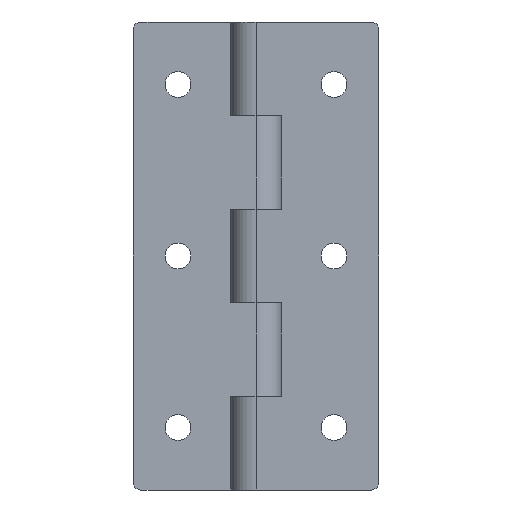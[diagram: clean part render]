
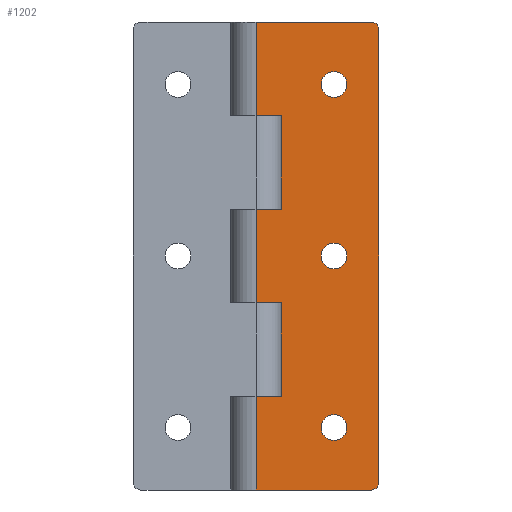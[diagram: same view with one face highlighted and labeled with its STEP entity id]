
A CAD part, front view. The second image highlights one B-rep face of the part: STEP entity #1202.
In plain terms, the highlighted planar face has unit normal (0, -1, 0).
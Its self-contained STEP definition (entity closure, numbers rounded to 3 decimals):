
#56=FACE_BOUND('',#247,.T.);
#57=FACE_BOUND('',#248,.T.);
#58=FACE_BOUND('',#249,.T.);
#106=CIRCLE('',#1311,1.);
#107=CIRCLE('',#1312,1.);
#108=CIRCLE('',#1313,1.65);
#109=CIRCLE('',#1314,1.65);
#110=CIRCLE('',#1315,1.65);
#167=FACE_OUTER_BOUND('',#246,.T.);
#246=EDGE_LOOP('',(#1008,#1009,#1010,#1011,#1012,#1013,#1014,#1015,#1016,
#1017,#1018,#1019,#1020,#1021));
#247=EDGE_LOOP('',(#1022));
#248=EDGE_LOOP('',(#1023));
#249=EDGE_LOOP('',(#1024));
#352=LINE('',#1916,#462);
#356=LINE('',#1933,#466);
#359=LINE('',#1937,#469);
#362=LINE('',#1945,#472);
#366=LINE('',#1962,#476);
#369=LINE('',#1966,#479);
#370=LINE('',#1969,#480);
#371=LINE('',#1971,#481);
#372=LINE('',#1975,#482);
#373=LINE('',#1979,#483);
#374=LINE('',#1980,#484);
#375=LINE('',#1981,#485);
#462=VECTOR('',#1556,3.25);
#466=VECTOR('',#1570,3.25);
#469=VECTOR('',#1575,12.);
#472=VECTOR('',#1580,3.25);
#476=VECTOR('',#1594,3.25);
#479=VECTOR('',#1599,12.);
#480=VECTOR('',#1602,12.);
#481=VECTOR('',#1603,14.75);
#482=VECTOR('',#1606,58.);
#483=VECTOR('',#1609,14.75);
#484=VECTOR('',#1610,12.);
#485=VECTOR('',#1611,12.);
#571=VERTEX_POINT('',#1913);
#572=VERTEX_POINT('',#1915);
#579=VERTEX_POINT('',#1930);
#580=VERTEX_POINT('',#1932);
#583=VERTEX_POINT('',#1942);
#584=VERTEX_POINT('',#1944);
#591=VERTEX_POINT('',#1959);
#592=VERTEX_POINT('',#1961);
#593=VERTEX_POINT('',#1968);
#594=VERTEX_POINT('',#1970);
#595=VERTEX_POINT('',#1972);
#596=VERTEX_POINT('',#1974);
#597=VERTEX_POINT('',#1976);
#598=VERTEX_POINT('',#1978);
#599=VERTEX_POINT('',#1982);
#600=VERTEX_POINT('',#1984);
#601=VERTEX_POINT('',#1986);
#717=EDGE_CURVE('',#572,#571,#352,.T.);
#725=EDGE_CURVE('',#580,#579,#356,.T.);
#728=EDGE_CURVE('',#571,#580,#359,.T.);
#731=EDGE_CURVE('',#584,#583,#362,.T.);
#739=EDGE_CURVE('',#592,#591,#366,.T.);
#742=EDGE_CURVE('',#583,#592,#369,.T.);
#743=EDGE_CURVE('',#593,#579,#370,.T.);
#744=EDGE_CURVE('',#593,#594,#371,.T.);
#745=EDGE_CURVE('',#594,#595,#106,.T.);
#746=EDGE_CURVE('',#595,#596,#372,.T.);
#747=EDGE_CURVE('',#596,#597,#107,.T.);
#748=EDGE_CURVE('',#597,#598,#373,.T.);
#749=EDGE_CURVE('',#584,#598,#374,.T.);
#750=EDGE_CURVE('',#572,#591,#375,.T.);
#751=EDGE_CURVE('',#599,#599,#108,.T.);
#752=EDGE_CURVE('',#600,#600,#109,.T.);
#753=EDGE_CURVE('',#601,#601,#110,.T.);
#1008=ORIENTED_EDGE('',*,*,#717,.T.);
#1009=ORIENTED_EDGE('',*,*,#728,.T.);
#1010=ORIENTED_EDGE('',*,*,#725,.T.);
#1011=ORIENTED_EDGE('',*,*,#743,.F.);
#1012=ORIENTED_EDGE('',*,*,#744,.T.);
#1013=ORIENTED_EDGE('',*,*,#745,.T.);
#1014=ORIENTED_EDGE('',*,*,#746,.T.);
#1015=ORIENTED_EDGE('',*,*,#747,.T.);
#1016=ORIENTED_EDGE('',*,*,#748,.T.);
#1017=ORIENTED_EDGE('',*,*,#749,.F.);
#1018=ORIENTED_EDGE('',*,*,#731,.T.);
#1019=ORIENTED_EDGE('',*,*,#742,.T.);
#1020=ORIENTED_EDGE('',*,*,#739,.T.);
#1021=ORIENTED_EDGE('',*,*,#750,.F.);
#1022=ORIENTED_EDGE('',*,*,#751,.F.);
#1023=ORIENTED_EDGE('',*,*,#752,.F.);
#1024=ORIENTED_EDGE('',*,*,#753,.F.);
#1150=PLANE('',#1310);
#1202=ADVANCED_FACE('',(#167,#56,#57,#58),#1150,.F.);
#1310=AXIS2_PLACEMENT_3D('',#1967,#1600,#1601);
#1311=AXIS2_PLACEMENT_3D('',#1973,#1604,#1605);
#1312=AXIS2_PLACEMENT_3D('',#1977,#1607,#1608);
#1313=AXIS2_PLACEMENT_3D('',#1983,#1612,#1613);
#1314=AXIS2_PLACEMENT_3D('',#1985,#1614,#1615);
#1315=AXIS2_PLACEMENT_3D('',#1987,#1616,#1617);
#1556=DIRECTION('',(1.,0.,0.));
#1570=DIRECTION('',(-1.,0.,0.));
#1575=DIRECTION('',(0.,0.,-1.));
#1580=DIRECTION('',(1.,0.,0.));
#1594=DIRECTION('',(-1.,0.,0.));
#1599=DIRECTION('',(0.,0.,-1.));
#1600=DIRECTION('center_axis',(0.,1.,0.));
#1601=DIRECTION('ref_axis',(-1.,0.,0.));
#1602=DIRECTION('',(0.,0.,1.));
#1603=DIRECTION('',(1.,0.,0.));
#1604=DIRECTION('center_axis',(0.,-1.,0.));
#1605=DIRECTION('ref_axis',(0.707,0.,-0.707));
#1606=DIRECTION('',(0.,0.,1.));
#1607=DIRECTION('center_axis',(0.,-1.,0.));
#1608=DIRECTION('ref_axis',(0.707,0.,0.707));
#1609=DIRECTION('',(-1.,0.,0.));
#1610=DIRECTION('',(0.,0.,1.));
#1611=DIRECTION('',(0.,0.,1.));
#1612=DIRECTION('center_axis',(0.,-1.,0.));
#1613=DIRECTION('ref_axis',(-1.,0.,0.));
#1614=DIRECTION('center_axis',(0.,-1.,0.));
#1615=DIRECTION('ref_axis',(-1.,0.,0.));
#1616=DIRECTION('center_axis',(0.,-1.,0.));
#1617=DIRECTION('ref_axis',(-1.,0.,0.));
#1913=CARTESIAN_POINT('',(3.25,0.,-6.));
#1915=CARTESIAN_POINT('',(0.,0.,-6.));
#1916=CARTESIAN_POINT('',(6.25,0.,-6.));
#1930=CARTESIAN_POINT('',(0.,0.,-18.));
#1932=CARTESIAN_POINT('',(3.25,0.,-18.));
#1933=CARTESIAN_POINT('',(9.5,0.,-18.));
#1937=CARTESIAN_POINT('',(3.25,0.,-3.));
#1942=CARTESIAN_POINT('',(3.25,0.,18.));
#1944=CARTESIAN_POINT('',(0.,0.,18.));
#1945=CARTESIAN_POINT('',(6.25,0.,18.));
#1959=CARTESIAN_POINT('',(0.,0.,6.));
#1961=CARTESIAN_POINT('',(3.25,0.,6.));
#1962=CARTESIAN_POINT('',(9.5,0.,6.));
#1966=CARTESIAN_POINT('',(3.25,0.,9.));
#1967=CARTESIAN_POINT('Origin',(15.75,0.,0.));
#1968=CARTESIAN_POINT('',(0.,0.,-30.));
#1969=CARTESIAN_POINT('',(0.,0.,0.));
#1970=CARTESIAN_POINT('',(14.75,0.,-30.));
#1971=CARTESIAN_POINT('',(15.75,0.,-30.));
#1972=CARTESIAN_POINT('',(15.75,0.,-29.));
#1973=CARTESIAN_POINT('Origin',(14.75,0.,-29.));
#1974=CARTESIAN_POINT('',(15.75,0.,29.));
#1975=CARTESIAN_POINT('',(15.75,0.,0.));
#1976=CARTESIAN_POINT('',(14.75,0.,30.));
#1977=CARTESIAN_POINT('Origin',(14.75,0.,29.));
#1978=CARTESIAN_POINT('',(0.,0.,30.));
#1979=CARTESIAN_POINT('',(15.75,0.,30.));
#1980=CARTESIAN_POINT('',(0.,0.,0.));
#1981=CARTESIAN_POINT('',(0.,0.,0.));
#1982=CARTESIAN_POINT('',(11.65,0.,0.));
#1983=CARTESIAN_POINT('Origin',(10.,0.,0.));
#1984=CARTESIAN_POINT('',(11.65,0.,-22.));
#1985=CARTESIAN_POINT('Origin',(10.,0.,-22.));
#1986=CARTESIAN_POINT('',(11.65,0.,22.));
#1987=CARTESIAN_POINT('Origin',(10.,0.,22.));
